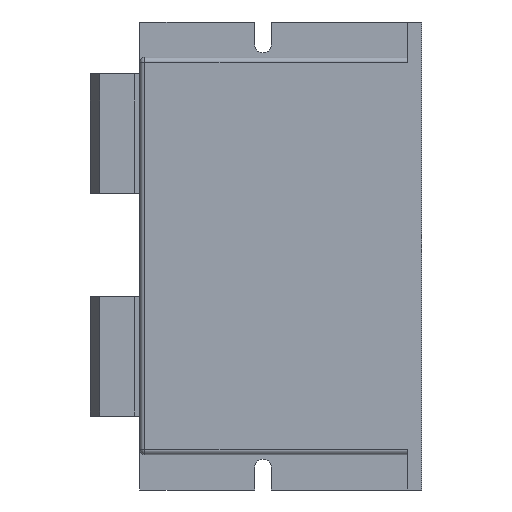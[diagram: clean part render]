
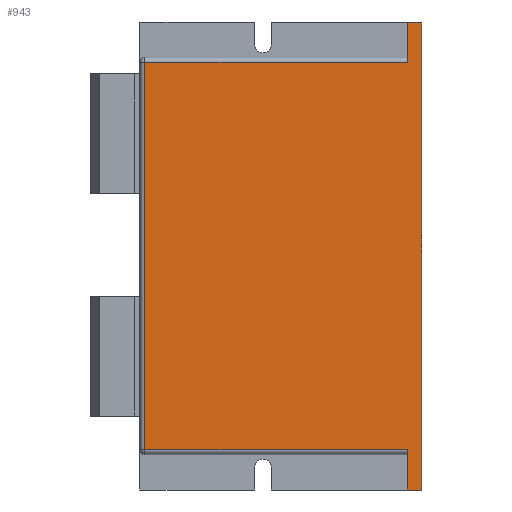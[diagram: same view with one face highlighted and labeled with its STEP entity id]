
A CAD part, left-side view. The second image highlights one B-rep face of the part: STEP entity #943.
In plain terms, the highlighted planar face has unit normal (-1, 0, 0).
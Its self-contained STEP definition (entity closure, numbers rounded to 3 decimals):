
#34=DIRECTION('',(0.,0.,1.));
#35=VECTOR('',#34,93.);
#36=CARTESIAN_POINT('',(-10.3,0.,-46.5));
#37=LINE('',#36,#35);
#63=DIRECTION('',(0.,1.,0.));
#64=VECTOR('',#63,2.8);
#65=CARTESIAN_POINT('',(-10.3,0.,46.5));
#66=LINE('',#65,#64);
#95=DIRECTION('',(0.,1.,0.));
#96=VECTOR('',#95,52.2);
#97=CARTESIAN_POINT('',(-10.3,2.8,38.5));
#98=LINE('',#97,#96);
#99=DIRECTION('',(0.,1.,0.));
#100=VECTOR('',#99,2.8);
#101=CARTESIAN_POINT('',(-10.3,0.,-46.5));
#102=LINE('',#101,#100);
#103=DIRECTION('',(0.,-1.,0.));
#104=VECTOR('',#103,52.2);
#105=CARTESIAN_POINT('',(-10.3,55.,-38.5));
#106=LINE('',#105,#104);
#107=DIRECTION('',(0.,0.,1.));
#108=VECTOR('',#107,77.);
#109=CARTESIAN_POINT('',(-10.3,55.,-38.5));
#110=LINE('',#109,#108);
#509=DIRECTION('',(0.,0.,-1.));
#510=VECTOR('',#509,8.);
#511=CARTESIAN_POINT('',(-10.3,2.8,-38.5));
#512=LINE('',#511,#510);
#530=DIRECTION('',(0.,0.,-1.));
#531=VECTOR('',#530,8.);
#532=CARTESIAN_POINT('',(-10.3,2.8,46.5));
#533=LINE('',#532,#531);
#607=CARTESIAN_POINT('',(-10.3,0.,-46.5));
#608=CARTESIAN_POINT('',(-10.3,0.,46.5));
#609=VERTEX_POINT('',#607);
#610=VERTEX_POINT('',#608);
#623=CARTESIAN_POINT('',(-10.3,2.8,-46.5));
#624=VERTEX_POINT('',#623);
#625=CARTESIAN_POINT('',(-10.3,2.8,46.5));
#626=VERTEX_POINT('',#625);
#683=CARTESIAN_POINT('',(-10.3,2.8,38.5));
#684=CARTESIAN_POINT('',(-10.3,55.,38.5));
#685=VERTEX_POINT('',#683);
#686=VERTEX_POINT('',#684);
#689=CARTESIAN_POINT('',(-10.3,55.,-38.5));
#690=VERTEX_POINT('',#689);
#701=CARTESIAN_POINT('',(-10.3,2.8,-38.5));
#702=VERTEX_POINT('',#701);
#922=CARTESIAN_POINT('',(-10.3,0.,-46.5));
#923=DIRECTION('',(-1.,0.,0.));
#924=DIRECTION('',(0.,0.,1.));
#925=AXIS2_PLACEMENT_3D('',#922,#923,#924);
#926=PLANE('',#925);
#928=ORIENTED_EDGE('',*,*,#927,.F.);
#930=ORIENTED_EDGE('',*,*,#929,.F.);
#931=ORIENTED_EDGE('',*,*,#881,.F.);
#932=ORIENTED_EDGE('',*,*,#820,.F.);
#934=ORIENTED_EDGE('',*,*,#933,.T.);
#936=ORIENTED_EDGE('',*,*,#935,.F.);
#938=ORIENTED_EDGE('',*,*,#937,.F.);
#940=ORIENTED_EDGE('',*,*,#939,.T.);
#941=EDGE_LOOP('',(#928,#930,#931,#932,#934,#936,#938,#940));
#942=FACE_OUTER_BOUND('',#941,.F.);
#943=ADVANCED_FACE('',(#942),#926,.T.);
#820=EDGE_CURVE('',#609,#610,#37,.T.);
#881=EDGE_CURVE('',#610,#626,#66,.T.);
#927=EDGE_CURVE('',#685,#686,#98,.T.);
#929=EDGE_CURVE('',#626,#685,#533,.T.);
#933=EDGE_CURVE('',#609,#624,#102,.T.);
#935=EDGE_CURVE('',#702,#624,#512,.T.);
#937=EDGE_CURVE('',#690,#702,#106,.T.);
#939=EDGE_CURVE('',#690,#686,#110,.T.);
